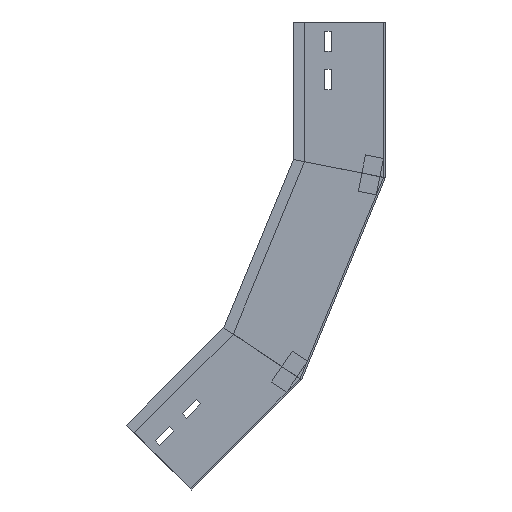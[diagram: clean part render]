
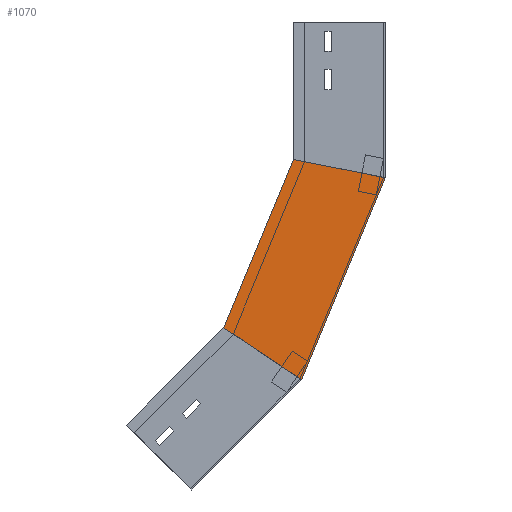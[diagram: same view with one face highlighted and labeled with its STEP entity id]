
A CAD part, left-side view. The second image highlights one B-rep face of the part: STEP entity #1070.
In plain terms, the highlighted planar face has unit normal (-1, 0, 0) as drawn and (1, 0, 0) by its records, which use the part's own axes.
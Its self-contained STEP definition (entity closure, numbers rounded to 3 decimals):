
#35 = CARTESIAN_POINT ( 'NONE',  ( 0., 100., -149.709 ) ) ;
#44 = DIRECTION ( 'NONE',  ( 0., -0.981, -0.195 ) ) ;
#154 = EDGE_CURVE ( 'NONE', #455, #449, #404, .T. ) ;
#238 = ORIENTED_EDGE ( 'NONE', *, *, #1484, .T. ) ;
#242 = ORIENTED_EDGE ( 'NONE', *, *, #687, .T. ) ;
#253 = CARTESIAN_POINT ( 'NONE',  ( 0., 32.452, -163.145 ) ) ;
#261 = VECTOR ( 'NONE', #1072, 1000. ) ;
#282 = CARTESIAN_POINT ( 'NONE',  ( 0., 0., -169.6 ) ) ;
#366 = DIRECTION ( 'NONE',  ( 0., 0.383, -0.924 ) ) ;
#404 = LINE ( 'NONE', #1457, #1376 ) ;
#449 = VERTEX_POINT ( 'NONE', #1009 ) ;
#450 = VECTOR ( 'NONE', #366, 1000. ) ;
#455 = VERTEX_POINT ( 'NONE', #995 ) ;
#472 = FACE_OUTER_BOUND ( 'NONE', #782, .T. ) ;
#476 = LINE ( 'NONE', #1092, #450 ) ;
#537 = ORIENTED_EDGE ( 'NONE', *, *, #154, .F. ) ;
#548 = ORIENTED_EDGE ( 'NONE', *, *, #671, .F. ) ;
#671 = EDGE_CURVE ( 'NONE', #1386, #455, #738, .T. ) ;
#687 = EDGE_CURVE ( 'NONE', #1028, #449, #476, .T. ) ;
#717 = VECTOR ( 'NONE', #44, 1000. ) ;
#732 = DIRECTION ( 'NONE',  ( 0., 0., 1. ) ) ;
#738 = LINE ( 'NONE', #1281, #261 ) ;
#782 = EDGE_LOOP ( 'NONE', ( #548, #238, #242, #537 ) ) ;
#858 = CARTESIAN_POINT ( 'NONE',  ( 0., 0., -169.6 ) ) ;
#972 = PLANE ( 'NONE',  #1473 ) ;
#995 = CARTESIAN_POINT ( 'NONE',  ( 0., 175.893, -332.93 ) ) ;
#1009 = CARTESIAN_POINT ( 'NONE',  ( 0., 91.117, -389.576 ) ) ;
#1028 = VERTEX_POINT ( 'NONE', #282 ) ;
#1070 = ADVANCED_FACE ( 'NONE', ( #472 ), #972, .F. ) ;
#1072 = DIRECTION ( 'NONE',  ( 0., 0.383, -0.924 ) ) ;
#1092 = CARTESIAN_POINT ( 'NONE',  ( 0., 0., -169.6 ) ) ;
#1166 = DIRECTION ( 'NONE',  ( -1., 0., 0. ) ) ;
#1233 = DIRECTION ( 'NONE',  ( 0., -0.831, -0.556 ) ) ;
#1275 = LINE ( 'NONE', #253, #717 ) ;
#1281 = CARTESIAN_POINT ( 'NONE',  ( 0., 92.388, -131.332 ) ) ;
#1376 = VECTOR ( 'NONE', #1233, 1000. ) ;
#1386 = VERTEX_POINT ( 'NONE', #35 ) ;
#1457 = CARTESIAN_POINT ( 'NONE',  ( 0., 129.74, -363.769 ) ) ;
#1473 = AXIS2_PLACEMENT_3D ( 'NONE', #858, #1166, #732 ) ;
#1484 = EDGE_CURVE ( 'NONE', #1386, #1028, #1275, .T. ) ;
